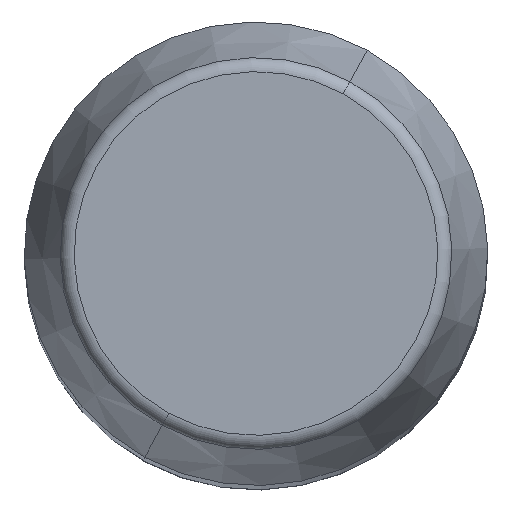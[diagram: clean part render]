
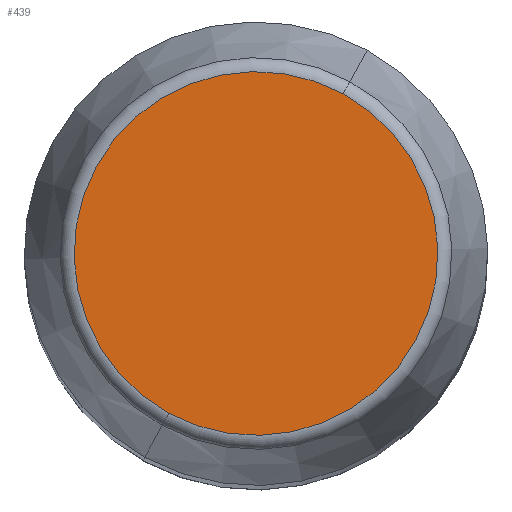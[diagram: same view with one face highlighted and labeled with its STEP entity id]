
A CAD part, top view. The second image highlights one B-rep face of the part: STEP entity #439.
In plain terms, the highlighted planar face has unit normal (0, 0, 1).
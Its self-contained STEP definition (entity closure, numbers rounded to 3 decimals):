
#391=CARTESIAN_POINT('Vertex',(-6.018,-11.016,200.)) ;
#394=CARTESIAN_POINT('Axis2P3D Location',(0.,0.,200.)) ;
#398=CARTESIAN_POINT('Vertex',(6.018,11.016,200.)) ;
#418=CARTESIAN_POINT('Axis2P3D Location',(0.,0.,200.)) ;
#430=CARTESIAN_POINT('Axis2P3D Location',(0.,12.553,200.)) ;
#395=DIRECTION('Axis2P3D Direction',(0.,0.,-1.)) ;
#419=DIRECTION('Axis2P3D Direction',(0.,0.,-1.)) ;
#431=DIRECTION('Axis2P3D Direction',(0.,0.,-1.)) ;
#432=DIRECTION('Axis2P3D XDirection',(1.,0.,0.)) ;
#396=AXIS2_PLACEMENT_3D('Circle Axis2P3D',#394,#395,$) ;
#420=AXIS2_PLACEMENT_3D('Circle Axis2P3D',#418,#419,$) ;
#433=AXIS2_PLACEMENT_3D('Plane Axis2P3D',#430,#431,#432) ;
#436=ORIENTED_EDGE('',*,*,#422,.F.) ;
#437=ORIENTED_EDGE('',*,*,#400,.F.) ;
#439=ADVANCED_FACE('PartBody',(#438),#434,.F.) ;
#397=CIRCLE('generated circle',#396,12.553) ;
#421=CIRCLE('generated circle',#420,12.553) ;
#400=EDGE_CURVE('',#392,#399,#397,.T.) ;
#422=EDGE_CURVE('',#399,#392,#421,.T.) ;
#435=EDGE_LOOP('',(#436,#437)) ;
#438=FACE_OUTER_BOUND('',#435,.T.) ;
#434=PLANE('Plane',#433) ;
#392=VERTEX_POINT('',#391) ;
#399=VERTEX_POINT('',#398) ;
